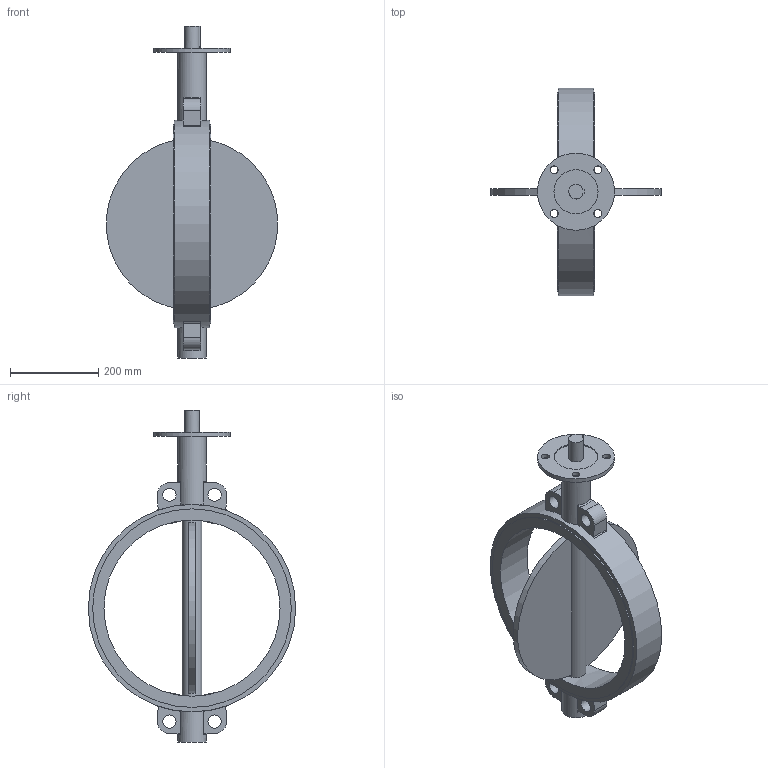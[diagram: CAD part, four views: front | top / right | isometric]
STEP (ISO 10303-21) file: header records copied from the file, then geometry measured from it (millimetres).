
FILE_DESCRIPTION(('STEP AP203'), '1');
FILE_NAME('青蜮铕 017W.YS_DN400_PN16', '', ('UNSPECIFIED'), ('UNSPECIFIED'), 'ASCON STEP Converter 1.6', 'ASCON Math Kernel', '');
FILE_SCHEMA(('CONFIG_CONTROL_DESIGN'));
Length unit declared in the file: millimetre
Bounding box: 388.17 x 471 x 754 mm (x, y, z)
Volume: 7546329.9 mm3; surface area: 726751 mm2
Topology: 1 solids, 1 shells, 89 faces, 220 edges, 146 vertices
Faces by surface type: plane 48, cylinder 37, torus 4
Full cylindrical faces by diameter (mm): 18 x4, 30 x4, 33.2 x1, 45 x1, 65 x2, 100 x1, 175 x1, 400 x1, 451 x2, 471 x1
Entity records: 4650 total; most frequent: CARTESIAN_POINT 1758, DIRECTION 452, ORIENTED_EDGE 404, EDGE_CURVE 202, AXIS2_PLACEMENT_3D 180, VERTEX_POINT 146, EDGE_LOOP 140, FACE_BOUND 107
